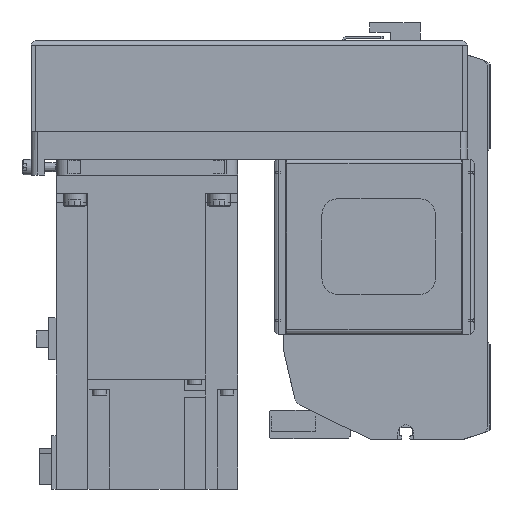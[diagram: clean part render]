
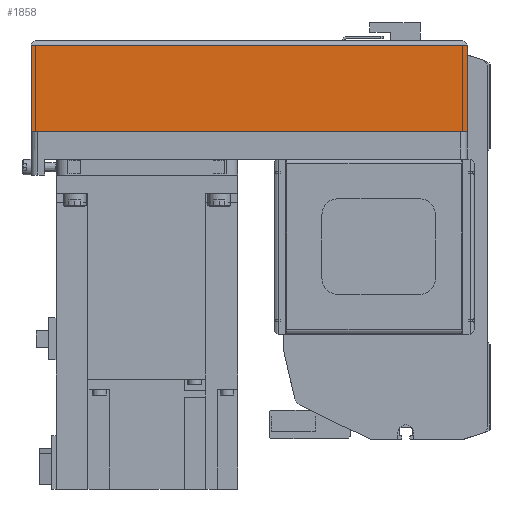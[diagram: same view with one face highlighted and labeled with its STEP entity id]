
A CAD part, left-side view. The second image highlights one B-rep face of the part: STEP entity #1858.
In plain terms, the highlighted planar face has unit normal (-1, 0, 0) as drawn and (0, 1, 0) by its records, which use the part's own axes.
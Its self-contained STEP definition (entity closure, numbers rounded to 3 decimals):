
#1858 = ADVANCED_FACE( '', ( #4481 ), #4482, .T. );
#4481 = FACE_OUTER_BOUND( '', #8099, .T. );
#4482 = PLANE( '', #8100 );
#8099 = EDGE_LOOP( '', ( #13452, #13453, #13454, #13455 ) );
#8100 = AXIS2_PLACEMENT_3D( '', #13456, #13457, #13458 );
#13452 = ORIENTED_EDGE( '', *, *, #21932, .F. );
#13453 = ORIENTED_EDGE( '', *, *, #21933, .F. );
#13454 = ORIENTED_EDGE( '', *, *, #20800, .T. );
#13455 = ORIENTED_EDGE( '', *, *, #20964, .T. );
#13456 = CARTESIAN_POINT( '', ( -192., 40., -50. ) );
#13457 = DIRECTION( '', ( 0., 1., 0. ) );
#13458 = DIRECTION( '', ( 0., 0., 1. ) );
#20800 = EDGE_CURVE( '', #24917, #24922, #24924, .T. );
#20964 = EDGE_CURVE( '', #24922, #25203, #25205, .T. );
#21932 = EDGE_CURVE( '', #26091, #25203, #26791, .T. );
#21933 = EDGE_CURVE( '', #24917, #26091, #26792, .T. );
#24917 = VERTEX_POINT( '', #30804 );
#24922 = VERTEX_POINT( '', #30811 );
#24924 = LINE( '', #30814, #30815 );
#25203 = VERTEX_POINT( '', #31207 );
#25205 = LINE( '', #31210, #31211 );
#26091 = VERTEX_POINT( '', #32617 );
#26791 = LINE( '', #33657, #33658 );
#26792 = LINE( '', #33659, #33660 );
#30804 = CARTESIAN_POINT( '', ( -192., 40., -50. ) );
#30811 = CARTESIAN_POINT( '', ( -192., 40., -12.1 ) );
#30814 = CARTESIAN_POINT( '', ( -192., 40., -50. ) );
#30815 = VECTOR( '', #38845, 1000. );
#31207 = CARTESIAN_POINT( '', ( 0., 40., -12.1 ) );
#31210 = CARTESIAN_POINT( '', ( -192., 40., -12.1 ) );
#31211 = VECTOR( '', #39035, 1000. );
#32617 = CARTESIAN_POINT( '', ( 0., 40., -50. ) );
#33657 = CARTESIAN_POINT( '', ( 0., 40., -50. ) );
#33658 = VECTOR( '', #40249, 1000. );
#33659 = CARTESIAN_POINT( '', ( -192., 40., -50. ) );
#33660 = VECTOR( '', #40250, 1000. );
#38845 = DIRECTION( '', ( 0., 0., 1. ) );
#39035 = DIRECTION( '', ( 1., 0., 0. ) );
#40249 = DIRECTION( '', ( 0., 0., 1. ) );
#40250 = DIRECTION( '', ( 1., 0., 0. ) );
